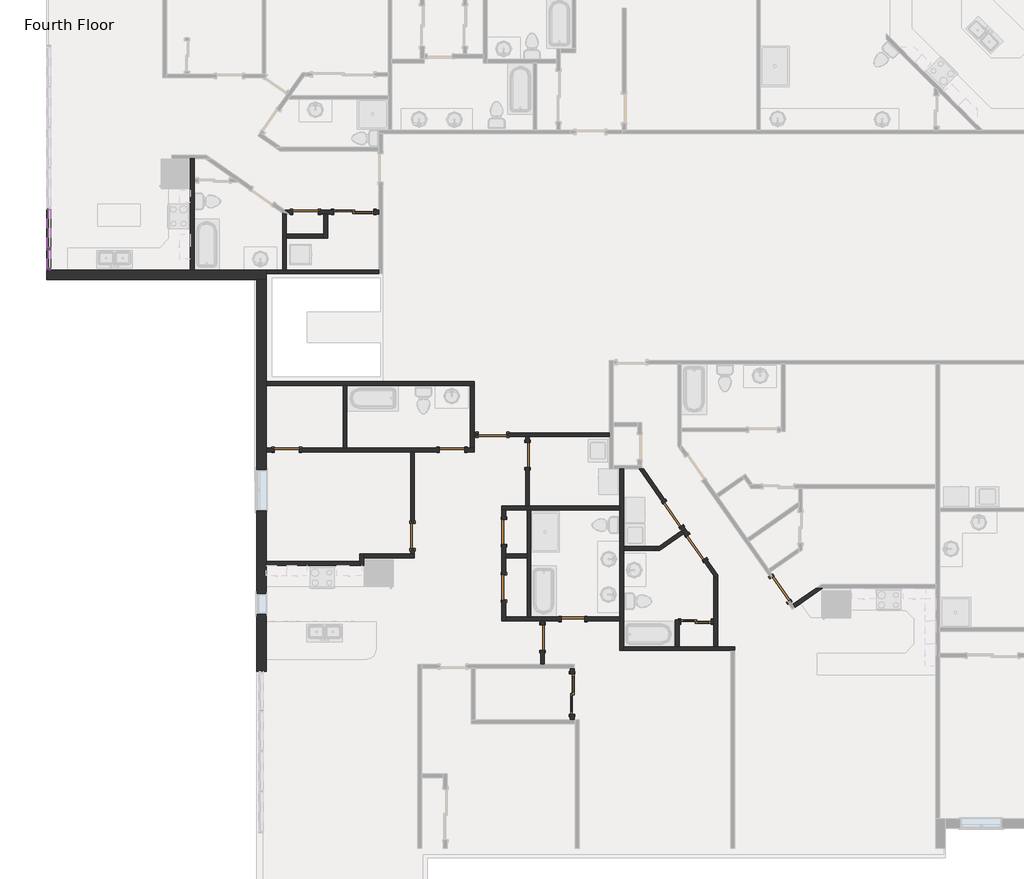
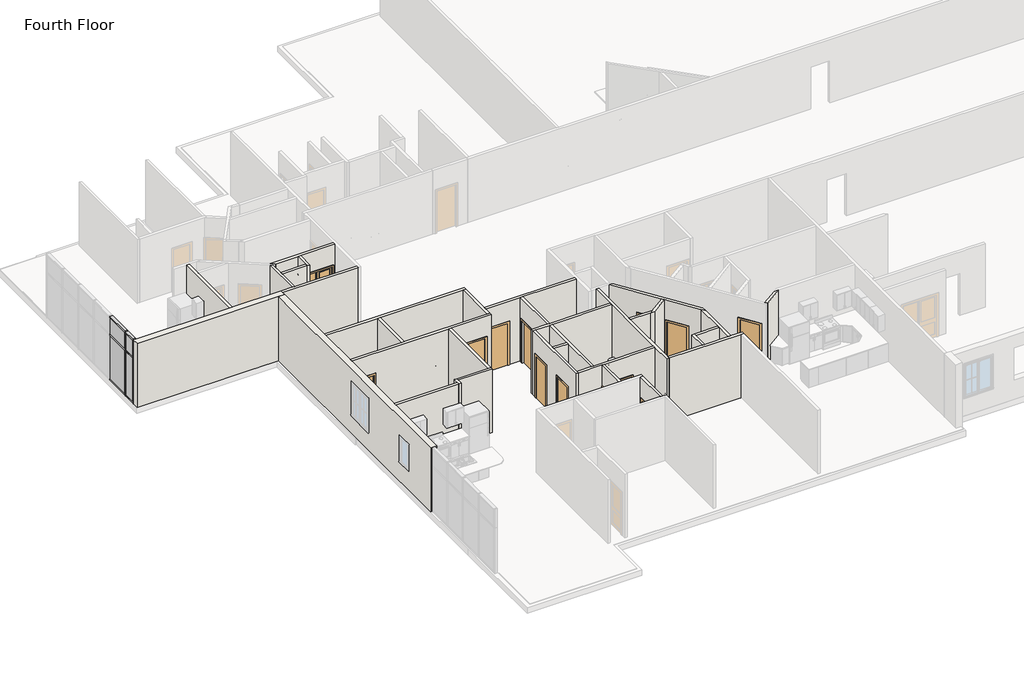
# One storey, part 2 of 17: 34 walls, 16 doors, 10 members, 4 plates.
"""IFC4 building model written with IfcOpenShell, lengths in millimetres."""

from ifc_helpers import new_model, si_unit, frame, origin, place, context, project, spatial, polyline, outline, extrude, faceted_brep, transform, mapped, element, save
from components import door_2d0eeab4, door_d8f5dbb5, door_f2b275c1, door_825b8444, door_c29894e6, door_88c23cd7, door_900f836f, rectangular_mullion_rectangular_mullion_1_fa3625a1, rectangular_mullion_rectangular_mullion_1_7cbf0b94, rectangular_mullion_rectangular_mullion_1_6186cc23, rectangular_mullion_rectangular_mullion_1_049a2e78, rectangular_mullion_rectangular_mullion_1_a50b3cda, rectangular_mullion_rectangular_mullion_1_5cd4c5ac, rectangular_mullion_rectangular_mullion_1_5f94ee87, rectangular_mullion_rectangular_mullion_1_01ab8f87, system_panel_glazed_0ed27d1d, system_panel_glazed_134bacdb, system_panel_glazed_08691960, system_panel_glazed_359e7c1e

model = new_model("IFC4")

# Units and contexts
model_context = context("Model", 3, world=origin())
ifc_project = project(units=[si_unit("LENGTHUNIT", "METRE", prefix="MILLI")], contexts=[model_context])

# Site, building, storey
site = spatial("IfcSite", under=ifc_project)
building = spatial("IfcBuilding", under=site)
storey = spatial("IfcBuildingStorey", under=building, Name="Fourth Floor", Elevation=9144.0)

# Doors
placement = place(None, origin())
door_shape = door_2d0eeab4(model_context)
element("IfcDoor", 1, ObjectType="Single-Flush : 28\" x 80\"", at=placement, inside=storey, context=model_context, shape_type="MappedRepresentation", body=[
    mapped(door_shape, transform((16422.928371, -12394.3493344, 9144.0), x_axis=(-1.0, 0.0, 0.0), y_axis=(0.0, -1.0, 0.0), z_axis=(0.0, 0.0, 1.0))),
])
door_2_shape = door_d8f5dbb5(model_context)
element("IfcDoor", 2, ObjectType="Single-Flush : 30\" x 80\"", at=placement, inside=storey, context=model_context, shape_type="MappedRepresentation", body=[
    mapped(door_2_shape, transform((12779.9561509, -7293.7212391, 9144.0), x_axis=(1.0, 0.0, 0.0), y_axis=(0.0, 1.0, 0.0), z_axis=(0.0, 0.0, 1.0))),
])
element("IfcDoor", 3, ObjectType="Single-Flush : 30\" x 80\"", at=placement, inside=storey, context=model_context, shape_type="MappedRepresentation", body=[
    mapped(door_2_shape, transform((14339.6754984, -9769.6379528, 9144.0), x_axis=(0.0, 1.0, 0.0), y_axis=(-1.0, 0.0, 0.0), z_axis=(0.0, 0.0, 1.0))),
])
door_3_shape = door_f2b275c1(model_context)
element("IfcDoor", 4, ObjectType="Single-Flush : 30\" x 80\"", at=placement, inside=storey, context=model_context, shape_type="MappedRepresentation", body=[
    mapped(door_3_shape, transform((8359.613642, -116.1297775, 9144.0), x_axis=(-1.0, 0.0, 0.0), y_axis=(0.0, -1.0, 0.0), z_axis=(0.0, 0.0, 1.0))),
])
element("IfcDoor", 5, ObjectType="Single-Flush : 30\" x 80\"", at=placement, inside=storey, context=model_context, shape_type="MappedRepresentation", body=[
    mapped(door_3_shape, transform((15056.22709, -7446.1212391, 9144.0), x_axis=(0.0, 1.0, 0.0), y_axis=(-1.0, 0.0, 0.0), z_axis=(0.0, 0.0, 1.0))),
])
element("IfcDoor", 6, ObjectType="Single-Flush : 30\" x 80\"", at=placement, inside=storey, context=model_context, shape_type="MappedRepresentation", body=[
    mapped(door_3_shape, transform((11582.8058728, -9888.1265712, 9144.0), x_axis=(0.0, -1.0, 0.0), y_axis=(1.0, 0.0, 0.0), z_axis=(0.0, 0.0, 1.0))),
])
element("IfcDoor", 7, ObjectType="Single-Flush : 30\" x 80\"", at=placement, inside=storey, context=model_context, shape_type="MappedRepresentation", body=[
    mapped(door_3_shape, transform((7791.0581159, -7293.7212391, 9144.0), x_axis=(-1.0, 0.0, 0.0), y_axis=(0.0, -1.0, 0.0), z_axis=(0.0, 0.0, 1.0))),
])
element("IfcDoor", 8, ObjectType="Single-Flush : 30\" x 80\"", at=placement, inside=storey, context=model_context, shape_type="MappedRepresentation", body=[
    mapped(door_3_shape, transform((14339.6754984, -11446.0379528, 9144.0), x_axis=(0.0, -1.0, 0.0), y_axis=(1.0, 0.0, 0.0), z_axis=(0.0, 0.0, 1.0))),
])
element("IfcDoor", 9, ObjectType="Single-Flush : 30\" x 80\"", at=placement, inside=storey, context=model_context, shape_type="MappedRepresentation", body=[
    mapped(door_3_shape, transform((15508.528371, -12959.3282576, 9144.0), x_axis=(0.0, 1.0, 0.0), y_axis=(-1.0, 0.0, 0.0), z_axis=(0.0, 0.0, 1.0))),
])
door_4_shape = door_825b8444(model_context)
element("IfcDoor", 10, ObjectType="Single-Flush : 34\" x 80\"", at=placement, inside=storey, context=model_context, shape_type="MappedRepresentation", body=[
    mapped(door_4_shape, transform((19441.5762048, -9236.3622072, 9144.0), x_axis=(0.573576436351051, -0.8191520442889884, 0.0), y_axis=(0.8191520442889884, 0.573576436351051, 0.0), z_axis=(0.0, 0.0, 1.0))),
])
door_5_shape = door_c29894e6(model_context)
element("IfcDoor", 11, ObjectType="Single-Flush : 34\" x 80\"", at=placement, inside=storey, context=model_context, shape_type="MappedRepresentation", body=[
    mapped(door_5_shape, transform((22679.8832205, -11498.1076976, 9144.0), x_axis=(0.5735764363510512, -0.8191520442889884, 0.0), y_axis=(0.8191520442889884, 0.5735764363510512, 0.0), z_axis=(0.0, 0.0, 1.0))),
])
element("IfcDoor", 12, ObjectType="Single-Flush : 34\" x 80\"", at=placement, inside=storey, context=model_context, shape_type="MappedRepresentation", body=[
    mapped(door_5_shape, transform((20140.880596, -10235.0723796, 9144.0), x_axis=(-0.573576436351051, 0.8191520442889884, 0.0), y_axis=(-0.8191520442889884, -0.573576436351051, 0.0), z_axis=(0.0, 0.0, 1.0))),
])
element("IfcDoor", 13, ObjectType="Single-Flush : 34\" x 80\"", at=placement, inside=storey, context=model_context, shape_type="MappedRepresentation", body=[
    mapped(door_5_shape, transform((13999.1561509, -6836.5212391, 9144.0), x_axis=(-1.0, 0.0, 0.0), y_axis=(0.0, -1.0, 0.0), z_axis=(0.0, 0.0, 1.0))),
])
door_6_shape = door_88c23cd7(model_context)
element("IfcDoor", 14, ObjectType="Sliding-Closet : 36\" x 80\"", at=placement, inside=storey, context=model_context, shape_type="MappedRepresentation", body=[
    mapped(door_6_shape, transform((20139.3524328, -12607.5204597, 9144.0), x_axis=(1.0, 0.0, 0.0), y_axis=(0.0, 1.0, 0.0), z_axis=(0.0, 0.0, 1.0))),
])
door_7_shape = door_900f836f(model_context)
element("IfcDoor", 15, ObjectType="Sliding-Closet : 48\" x 80\"", at=placement, inside=storey, context=model_context, shape_type="MappedRepresentation", body=[
    mapped(door_7_shape, transform((9813.633999, -243.1297775, 9144.0), x_axis=(1.0, 0.0, 0.0), y_axis=(0.0, 1.0, 0.0), z_axis=(0.0, 0.0, 1.0))),
])
element("IfcDoor", 16, ObjectType="Sliding-Closet : 48\" x 80\"", at=placement, inside=storey, context=model_context, shape_type="MappedRepresentation", body=[
    mapped(door_7_shape, transform((16274.860372, -14663.3427377, 9144.0), x_axis=(0.0, -1.0, 0.0), y_axis=(1.0, 0.0, 0.0), z_axis=(0.0, 0.0, 1.0))),
])

# Members
rectangular_mullion_rectangular_mullion_1_shape = rectangular_mullion_rectangular_mullion_1_fa3625a1(model_context)
element("IfcMember", 17, ObjectType="Rectangular Mullion : Rectangular Mullion 1", at=placement, inside=storey, context=model_context, shape_type="MappedRepresentation", body=[
    mapped(rectangular_mullion_rectangular_mullion_1_shape, transform((612.3831159, -1182.2572154, 12192.0), x_axis=(0.0, 0.0, 1.0), y_axis=(-1.0, 0.0, 0.0), z_axis=(0.0, -1.0, 0.0))),
])
element("IfcMember", 18, ObjectType="Rectangular Mullion : Rectangular Mullion 1", at=placement, inside=storey, context=model_context, shape_type="MappedRepresentation", body=[
    mapped(rectangular_mullion_rectangular_mullion_1_shape, transform((612.3831159, -26.5572154, 9144.0), x_axis=(0.0, 0.0, -1.0), y_axis=(-1.0, 0.0, 0.0), z_axis=(0.0, 1.0, 0.0))),
])
rectangular_mullion_rectangular_mullion_1_2_shape = rectangular_mullion_rectangular_mullion_1_7cbf0b94(model_context)
element("IfcMember", 19, ObjectType="Rectangular Mullion : Rectangular Mullion 1", at=placement, inside=storey, context=model_context, shape_type="MappedRepresentation", body=[
    mapped(rectangular_mullion_rectangular_mullion_1_2_shape, transform((612.3831159, -1182.2572154, 11309.35), x_axis=(0.0, 0.0, 1.0), y_axis=(-1.0, 0.0, 0.0), z_axis=(0.0, -1.0, 0.0))),
])
rectangular_mullion_rectangular_mullion_1_3_shape = rectangular_mullion_rectangular_mullion_1_6186cc23(model_context)
element("IfcMember", 20, ObjectType="Rectangular Mullion : Rectangular Mullion 1", at=placement, inside=storey, context=model_context, shape_type="MappedRepresentation", body=[
    mapped(rectangular_mullion_rectangular_mullion_1_3_shape, transform((612.3831159, -1214.0072154, 9144.0), x_axis=(0.0, -1.0, 0.0), y_axis=(-1.0, 0.0, 0.0), z_axis=(0.0, 0.0, -1.0))),
])
rectangular_mullion_rectangular_mullion_1_4_shape = rectangular_mullion_rectangular_mullion_1_049a2e78(model_context)
element("IfcMember", 21, ObjectType="Rectangular Mullion : Rectangular Mullion 1", at=placement, inside=storey, context=model_context, shape_type="MappedRepresentation", body=[
    mapped(rectangular_mullion_rectangular_mullion_1_4_shape, transform((612.3831159, -1214.0072154, 11309.35), x_axis=(0.0, -1.0, 0.0), y_axis=(-1.0, 0.0, 0.0), z_axis=(0.0, 0.0, -1.0))),
])
rectangular_mullion_rectangular_mullion_1_5_shape = rectangular_mullion_rectangular_mullion_1_a50b3cda(model_context)
element("IfcMember", 22, ObjectType="Rectangular Mullion : Rectangular Mullion 1", at=placement, inside=storey, context=model_context, shape_type="MappedRepresentation", body=[
    mapped(rectangular_mullion_rectangular_mullion_1_5_shape, transform((612.3831159, -1864.031369, 9144.0), x_axis=(0.0, -1.0, 0.0), y_axis=(-1.0, 0.0, 0.0), z_axis=(0.0, 0.0, -1.0))),
])
rectangular_mullion_rectangular_mullion_1_6_shape = rectangular_mullion_rectangular_mullion_1_5cd4c5ac(model_context)
element("IfcMember", 23, ObjectType="Rectangular Mullion : Rectangular Mullion 1", at=placement, inside=storey, context=model_context, shape_type="MappedRepresentation", body=[
    mapped(rectangular_mullion_rectangular_mullion_1_6_shape, transform((612.3831159, -1864.031369, 11309.35), x_axis=(0.0, -1.0, 0.0), y_axis=(-1.0, 0.0, 0.0), z_axis=(0.0, 0.0, -1.0))),
])
rectangular_mullion_rectangular_mullion_1_7_shape = rectangular_mullion_rectangular_mullion_1_5f94ee87(model_context)
element("IfcMember", 24, ObjectType="Rectangular Mullion : Rectangular Mullion 1", at=placement, inside=storey, context=model_context, shape_type="MappedRepresentation", body=[
    mapped(rectangular_mullion_rectangular_mullion_1_7_shape, transform((612.3831159, -1800.531369, 12192.0), x_axis=(0.0, 0.0, 1.0), y_axis=(-1.0, 0.0, 0.0), z_axis=(0.0, -1.0, 0.0))),
])
element("IfcMember", 25, ObjectType="Rectangular Mullion : Rectangular Mullion 1", at=placement, inside=storey, context=model_context, shape_type="MappedRepresentation", body=[
    mapped(rectangular_mullion_rectangular_mullion_1_7_shape, transform((612.3831159, -1245.7572154, 9144.0), x_axis=(0.0, 0.0, -1.0), y_axis=(-1.0, 0.0, 0.0), z_axis=(0.0, 1.0, 0.0))),
])
rectangular_mullion_rectangular_mullion_1_8_shape = rectangular_mullion_rectangular_mullion_1_01ab8f87(model_context)
element("IfcMember", 26, ObjectType="Rectangular Mullion : Rectangular Mullion 1", at=placement, inside=storey, context=model_context, shape_type="MappedRepresentation", body=[
    mapped(rectangular_mullion_rectangular_mullion_1_8_shape, transform((612.3831159, -1800.531369, 11309.35), x_axis=(0.0, 0.0, 1.0), y_axis=(-1.0, 0.0, 0.0), z_axis=(0.0, -1.0, 0.0))),
])

# Plates
system_panel_glazed_shape = system_panel_glazed_0ed27d1d(model_context)
element("IfcPlate", 27, ObjectType="System Panel : Glazed", at=placement, inside=storey, context=model_context, shape_type="MappedRepresentation", body=[
    mapped(system_panel_glazed_shape, transform((612.3831159, -604.4072154, 9207.5), x_axis=(0.0, -1.0, 0.0), y_axis=(1.0, 0.0, 0.0), z_axis=(0.0, 0.0, 1.0))),
])
system_panel_glazed_2_shape = system_panel_glazed_134bacdb(model_context)
element("IfcPlate", 28, ObjectType="System Panel : Glazed", at=placement, inside=storey, context=model_context, shape_type="MappedRepresentation", body=[
    mapped(system_panel_glazed_2_shape, transform((612.3831159, -604.4072154, 11341.1), x_axis=(0.0, -1.0, 0.0), y_axis=(1.0, 0.0, 0.0), z_axis=(0.0, 0.0, 1.0))),
])
system_panel_glazed_3_shape = system_panel_glazed_08691960(model_context)
element("IfcPlate", 29, ObjectType="System Panel : Glazed", at=placement, inside=storey, context=model_context, shape_type="MappedRepresentation", body=[
    mapped(system_panel_glazed_3_shape, transform((612.3831159, -1523.1442922, 9207.5), x_axis=(0.0, -1.0, 0.0), y_axis=(1.0, 0.0, 0.0), z_axis=(0.0, 0.0, 1.0))),
])
system_panel_glazed_4_shape = system_panel_glazed_359e7c1e(model_context)
element("IfcPlate", 30, ObjectType="System Panel : Glazed", at=placement, inside=storey, context=model_context, shape_type="MappedRepresentation", body=[
    mapped(system_panel_glazed_4_shape, transform((612.3831159, -1523.1442922, 11341.1), x_axis=(0.0, -1.0, 0.0), y_axis=(1.0, 0.0, 0.0), z_axis=(0.0, 0.0, 1.0))),
])

# Walls
element("IfcWall", 31, ObjectType="Exterior - Brick on Wood Stud", at=placement, inside=storey, context=model_context, shape_type="Brep", body=[
    faceted_brep([(7170.3456159, -13981.3871067, 9144.0), (7170.3456159, -10775.0993344, 9144.0), (7170.3456159, -10660.7993344, 9144.0), (7170.3456159, -7350.8712391, 9144.0), (7170.3456159, -7236.5712391, 9144.0), (7170.3456159, -5351.7371067, 9144.0), (7170.3456159, -5237.4371067, 9144.0), (7170.3456159, -2146.606369, 9144.0), (7170.3456159, -2146.606369, 12192.0), (7170.3456159, -5237.4371067, 12192.0), (7170.3456159, -5351.7371067, 12192.0), (7170.3456159, -7236.5712391, 12192.0), (7170.3456159, -7350.8712391, 12192.0), (7170.3456159, -10660.7993344, 12192.0), (7170.3456159, -10775.0993344, 12192.0), (7170.3456159, -13981.3871067, 12192.0), (7170.3456159, -7903.3212391, 11582.4), (7170.3456159, -7903.3212391, 10058.4), (7170.3456159, -9122.5212391, 10058.4), (7170.3456159, -9122.5212391, 11582.4), (7170.3456159, -11632.3493344, 11277.6), (7170.3456159, -11632.3493344, 10058.4), (7170.3456159, -12241.9493344, 10058.4), (7170.3456159, -12241.9493344, 11277.6), (6887.7706159, -13981.3871067, 9144.0), (6887.7706159, -13981.3871067, 12192.0), (6887.7706159, -2146.606369, 12192.0), (6887.7706159, -2146.606369, 9144.0), (6887.7706159, -7903.3212391, 11582.4), (6887.7706159, -9122.5212391, 11582.4), (6887.7706159, -9122.5212391, 10058.4), (6887.7706159, -7903.3212391, 10058.4), (6887.7706159, -11632.3493344, 11277.6), (6887.7706159, -12241.9493344, 11277.6), (6887.7706159, -12241.9493344, 10058.4), (6887.7706159, -11632.3493344, 10058.4)], [[[0, 1, 2, 3, 4, 5, 6, 7, 8, 9, 10, 11, 12, 13, 14, 15], [16, 17, 18, 19], [20, 21, 22, 23]], [[24, 25, 26, 27], [28, 29, 30, 31], [32, 33, 34, 35]], [[7, 6, 5, 4, 3, 2, 1, 0, 24, 27]], [[15, 14, 13, 12, 11, 10, 9, 8, 26, 25]], [[0, 15, 25, 24]], [[17, 16, 28, 31]], [[18, 17, 31, 30]], [[19, 18, 30, 29]], [[16, 19, 29, 28]], [[21, 20, 32, 35]], [[22, 21, 35, 34]], [[23, 22, 34, 33]], [[20, 23, 33, 32]], [[8, 7, 27, 26]]]),
])
element("IfcWall", 32, ObjectType="Exterior - Brick on Wood Stud", at=placement, inside=storey, context=model_context, shape_type="Brep", body=[
    faceted_brep([(548.8831159, -2146.606369, 9144.0), (6887.7706159, -2146.606369, 9144.0), (7170.3456159, -2146.606369, 9144.0), (7170.3456159, -2146.606369, 12192.0), (6887.7706159, -2146.606369, 12192.0), (548.8831159, -2146.606369, 12192.0), (548.8831159, -1864.031369, 9144.0), (548.8831159, -1864.031369, 12192.0), (4880.7003923, -1864.031369, 12192.0), (4995.0003923, -1864.031369, 12192.0), (7170.3456159, -1864.031369, 12192.0), (7170.3456159, -1864.031369, 9144.0), (4995.0003923, -1864.031369, 9144.0), (4880.7003923, -1864.031369, 9144.0), (7170.3456159, -1978.331369, 9144.0), (7170.3456159, -1978.331369, 12192.0)], [[[0, 1, 2, 3, 4, 5]], [[6, 7, 8, 9, 10, 11, 12, 13]], [[2, 1, 0, 6, 13, 12, 11, 14]], [[5, 4, 3, 15, 10, 9, 8, 7]], [[0, 5, 7, 6]], [[3, 2, 14, 11, 10, 15]]]),
])
element("IfcWall", 33, ObjectType="Interior - 4 1/2\" Partition", at=placement, inside=storey, context=model_context, shape_type="Brep", body=[
    faceted_brep([(4995.0003923, -1864.031369, 9144.0), (4995.0003923, 782.2685137, 9144.0), (4995.0003923, 896.5685137, 9144.0), (4995.0003923, 1493.4685137, 9144.0), (4995.0003923, 1493.4685137, 12192.0), (4995.0003923, 896.5685137, 12192.0), (4995.0003923, 782.2685137, 12192.0), (4995.0003923, -1864.031369, 12192.0), (4880.7003923, -1864.031369, 9144.0), (4880.7003923, -1864.031369, 12192.0), (4880.7003923, 1493.4685137, 12192.0), (4880.7003923, 1493.4685137, 9144.0)], [[[0, 1, 2, 3, 4, 5, 6, 7]], [[8, 9, 10, 11]], [[3, 2, 1, 0, 8, 11]], [[7, 6, 5, 4, 10, 9]], [[0, 7, 9, 8]], [[4, 3, 11, 10]]]),
])
element("IfcWall", 34, ObjectType="Interior - 4 1/2\" Partition", at=placement, inside=storey, context=model_context, shape_type="Brep", body=[
    faceted_brep([(10569.283999, -173.2797775, 12192.0), (9026.363642, -173.2797775, 12192.0), (8912.063642, -173.2797775, 12192.0), (7905.870285, -173.2797775, 12192.0), (7905.870285, -173.2797775, 9144.0), (7978.613642, -173.2797775, 9144.0), (7978.613642, -173.2797775, 11176.0), (8740.613642, -173.2797775, 11176.0), (8740.613642, -173.2797775, 9144.0), (8912.063642, -173.2797775, 9144.0), (9026.363642, -173.2797775, 9144.0), (9204.033999, -173.2797775, 9144.0), (9204.033999, -173.2797775, 11176.0), (10423.233999, -173.2797775, 11176.0), (10423.233999, -173.2797775, 9144.0), (10569.283999, -173.2797775, 9144.0), (7742.6329678, -58.9797775, 12192.0), (10569.283999, -58.9797775, 12192.0), (10569.283999, -58.9797775, 9144.0), (10423.233999, -58.9797775, 9144.0), (10423.233999, -58.9797775, 11176.0), (9204.033999, -58.9797775, 11176.0), (9204.033999, -58.9797775, 9144.0), (8740.613642, -58.9797775, 9144.0), (8740.613642, -58.9797775, 11176.0), (7978.613642, -58.9797775, 11176.0), (7978.613642, -58.9797775, 9144.0), (7742.6329678, -58.9797775, 9144.0)], [[[0, 1, 2, 3, 4, 5, 6, 7, 8, 9, 10, 11, 12, 13, 14, 15]], [[16, 17, 18, 19, 20, 21, 22, 23, 24, 25, 26, 27]], [[26, 5, 4, 27]], [[8, 23, 22, 11, 10, 9]], [[18, 15, 14, 19]], [[3, 2, 1, 0, 17, 16]], [[6, 5, 26, 25]], [[7, 6, 25, 24]], [[8, 7, 24, 23]], [[21, 12, 11, 22]], [[12, 21, 20, 13]], [[13, 20, 19, 14]], [[4, 3, 16, 27]], [[0, 15, 18, 17]]]),
])
element("IfcWall", 35, ObjectType="Interior - 4 1/2\" Partition", at=placement, inside=storey, context=model_context, shape_type="Brep", body=[
    faceted_brep([(7667.463642, -145.8801844, 9144.0), (7667.463642, -1864.031369, 9144.0), (7667.463642, -1864.031369, 12192.0), (7667.463642, -145.8801844, 12192.0), (7781.763642, -173.2797775, 9144.0), (7781.763642, -173.2797775, 12192.0), (7781.763642, -783.946226, 12192.0), (7781.763642, -898.246226, 12192.0), (7781.763642, -1864.031369, 12192.0), (7781.763642, -1864.031369, 9144.0), (7781.763642, -898.246226, 9144.0), (7781.763642, -783.946226, 9144.0), (7706.5943163, -173.2797775, 9144.0), (7706.5943163, -173.2797775, 12192.0)], [[[0, 1, 2, 3]], [[4, 5, 6, 7, 8, 9, 10, 11]], [[1, 0, 12, 4, 11, 10, 9]], [[3, 2, 8, 7, 6, 5, 13]], [[2, 1, 9, 8]], [[0, 3, 13, 12]], [[13, 5, 4, 12]]]),
])
element("IfcWall", 36, ObjectType="Interior - 4 1/2\" Partition", at=placement, inside=storey, context=model_context, shape_type="Brep", body=[
    faceted_brep([(8912.063642, -173.2797775, 9144.0), (8912.063642, -783.946226, 9144.0), (8912.063642, -898.246226, 9144.0), (8912.063642, -898.246226, 12192.0), (8912.063642, -783.946226, 12192.0), (8912.063642, -173.2797775, 12192.0), (9026.363642, -173.2797775, 9144.0), (9026.363642, -173.2797775, 12192.0), (9026.363642, -898.246226, 12192.0), (9026.363642, -898.246226, 9144.0)], [[[0, 1, 2, 3, 4, 5]], [[6, 7, 8, 9]], [[2, 1, 0, 6, 9]], [[5, 4, 3, 8, 7]], [[3, 2, 9, 8]], [[0, 5, 7, 6]]]),
])
element("IfcWall", 37, ObjectType="Interior - 4 1/2\" Partition", at=placement, inside=storey, context=model_context, shape_type="SweptSolid", body=[
    extrude(outline(polyline([(7781.763642, -783.946226), (8912.063642, -783.946226), (8912.063642, -898.246226), (7781.763642, -898.246226), (7781.763642, -783.946226)])), frame((0.0, 0.0, 9144.0), z_axis=(0.0, 0.0, 1.0), x_axis=(1.0, 0.0, 0.0)), (0.0, 0.0, 1.0), 3048.0),
])
element("IfcWall", 38, ObjectType="Interior - 4 1/2\" Partition", at=placement, inside=storey, context=model_context, shape_type="Brep", body=[
    faceted_brep([(7170.3456159, -5351.7371067, 9144.0), (9494.3397027, -5351.7371067, 9144.0), (9608.6397027, -5351.7371067, 9144.0), (13332.4061509, -5351.7371067, 9144.0), (13446.7061509, -5351.7371067, 9144.0), (13446.7061509, -5351.7371067, 12192.0), (13332.4061509, -5351.7371067, 12192.0), (9608.6397027, -5351.7371067, 12192.0), (9494.3397027, -5351.7371067, 12192.0), (7170.3456159, -5351.7371067, 12192.0), (7170.3456159, -5237.4371067, 9144.0), (7170.3456159, -5237.4371067, 12192.0), (13446.7061509, -5237.4371067, 12192.0), (13446.7061509, -5237.4371067, 9144.0)], [[[0, 1, 2, 3, 4, 5, 6, 7, 8, 9]], [[10, 11, 12, 13]], [[4, 3, 2, 1, 0, 10, 13]], [[9, 8, 7, 6, 5, 12, 11]], [[5, 4, 13, 12]], [[0, 9, 11, 10]]]),
])
element("IfcWall", 39, ObjectType="Interior - 4 1/2\" Partition", at=placement, inside=storey, context=model_context, shape_type="Brep", body=[
    faceted_brep([(13332.4061509, -5351.7371067, 9144.0), (13332.4061509, -7236.5712391, 9144.0), (13332.4061509, -7236.5712391, 12192.0), (13332.4061509, -5351.7371067, 12192.0), (13446.7061509, -5351.7371067, 9144.0), (13446.7061509, -5351.7371067, 12192.0), (13446.7061509, -6779.3712391, 12192.0), (13446.7061509, -6893.6712391, 12192.0), (13446.7061509, -7236.5712391, 12192.0), (13446.7061509, -7236.5712391, 9144.0), (13446.7061509, -6893.6712391, 9144.0), (13446.7061509, -6779.3712391, 9144.0)], [[[0, 1, 2, 3]], [[4, 5, 6, 7, 8, 9, 10, 11]], [[1, 0, 4, 11, 10, 9]], [[3, 2, 8, 7, 6, 5]], [[2, 1, 9, 8]], [[0, 3, 5, 4]]]),
])
element("IfcWall", 40, ObjectType="Interior - 4 1/2\" Partition", at=placement, inside=storey, context=model_context, shape_type="Brep", body=[
    faceted_brep([(13446.7061509, -6893.6712391, 9144.0), (13567.3561509, -6893.6712391, 9144.0), (13567.3561509, -6893.6712391, 11176.0), (14430.9561509, -6893.6712391, 11176.0), (14430.9561509, -6893.6712391, 9144.0), (14999.07709, -6893.6712391, 9144.0), (15113.37709, -6893.6712391, 9144.0), (17521.3916991, -6893.6712391, 9144.0), (17521.3916991, -6893.6712391, 12192.0), (15113.37709, -6893.6712391, 12192.0), (14999.07709, -6893.6712391, 12192.0), (13446.7061509, -6893.6712391, 12192.0), (13567.3561509, -6779.3712391, 11176.0), (13567.3561509, -6779.3712391, 9144.0), (13446.7061509, -6779.3712391, 9144.0), (13446.7061509, -6779.3712391, 12192.0), (17521.3916991, -6779.3712391, 12192.0), (17521.3916991, -6779.3712391, 9144.0), (14430.9561509, -6779.3712391, 9144.0), (14430.9561509, -6779.3712391, 11176.0)], [[[0, 1, 2, 3, 4, 5, 6, 7, 8, 9, 10, 11]], [[12, 13, 14, 15, 16, 17, 18, 19]], [[18, 17, 7, 6, 5, 4]], [[14, 13, 1, 0]], [[11, 10, 9, 8, 16, 15]], [[2, 1, 13, 12]], [[3, 2, 12, 19]], [[4, 3, 19, 18]], [[8, 7, 17, 16]], [[0, 11, 15, 14]]]),
])
element("IfcWall", 41, ObjectType="Interior - 4 1/2\" Partition", at=placement, inside=storey, context=model_context, shape_type="Brep", body=[
    faceted_brep([(17837.7191338, -7873.4719726, 9144.0), (17837.7191338, -8984.3993344, 9144.0), (17837.7191338, -9098.6993344, 9144.0), (17837.7191338, -12337.1993344, 9144.0), (17837.7191338, -12451.4993344, 9144.0), (17837.7191338, -13350.4704597, 9144.0), (17837.7191338, -13350.4704597, 12192.0), (17837.7191338, -12451.4993344, 12192.0), (17837.7191338, -12337.1993344, 12192.0), (17837.7191338, -9098.6993344, 12192.0), (17837.7191338, -8984.3993344, 12192.0), (17837.7191338, -7873.4719726, 12192.0), (17952.0191338, -7873.4719726, 9144.0), (17952.0191338, -7873.4719726, 12192.0), (17952.0191338, -10214.0460393, 12192.0), (17952.0191338, -10328.3460393, 12192.0), (17952.0191338, -13236.1704597, 12192.0), (17952.0191338, -13350.4704597, 12192.0), (17952.0191338, -13350.4704597, 9144.0), (17952.0191338, -13236.1704597, 9144.0), (17952.0191338, -10328.3460393, 9144.0), (17952.0191338, -10214.0460393, 9144.0)], [[[0, 1, 2, 3, 4, 5, 6, 7, 8, 9, 10, 11]], [[12, 13, 14, 15, 16, 17, 18, 19, 20, 21]], [[5, 4, 3, 2, 1, 0, 12, 21, 20, 19, 18]], [[11, 10, 9, 8, 7, 6, 17, 16, 15, 14, 13]], [[6, 5, 18, 17]], [[0, 11, 13, 12]]]),
])
element("IfcWall", 42, ObjectType="Interior - 4 1/2\" Partition", at=placement, inside=storey, context=model_context, shape_type="Brep", body=[
    faceted_brep([(17952.0191338, -13350.4704597, 9144.0), (21185.6615862, -13350.4704597, 9144.0), (21299.9615862, -13350.4704597, 9144.0), (21299.9615862, -13350.4704597, 12192.0), (21185.6615862, -13350.4704597, 12192.0), (17952.0191338, -13350.4704597, 12192.0), (17952.0191338, -13236.1704597, 9144.0), (17952.0191338, -13236.1704597, 12192.0), (19511.69036, -13236.1704597, 12192.0), (19625.99036, -13236.1704597, 12192.0), (20678.1145056, -13236.1704597, 12192.0), (20792.4145056, -13236.1704597, 12192.0), (21299.9615862, -13236.1704597, 12192.0), (21299.9615862, -13236.1704597, 9144.0), (20792.4145056, -13236.1704597, 9144.0), (20678.1145056, -13236.1704597, 9144.0), (19625.99036, -13236.1704597, 9144.0), (19511.69036, -13236.1704597, 9144.0)], [[[0, 1, 2, 3, 4, 5]], [[6, 7, 8, 9, 10, 11, 12, 13, 14, 15, 16, 17]], [[2, 1, 0, 6, 17, 16, 15, 14, 13]], [[5, 4, 3, 12, 11, 10, 9, 8, 7]], [[3, 2, 13, 12]], [[0, 5, 7, 6]]]),
])
element("IfcWall", 43, ObjectType="Interior - 4 1/2\" Partition", at=placement, inside=storey, context=model_context, shape_type="SweptSolid", body=[
    extrude(outline(polyline([(-15272.9427377, 11176.0), (-15272.9427377, 9144.0), (-15440.4282946, 9144.0), (-15440.4282946, 12192.0), (-13886.2571807, 12192.0), (-13886.2571807, 9144.0), (-14053.7427377, 9144.0), (-14053.7427377, 11176.0), (-15272.9427377, 11176.0)])), frame((16344.710372, 0.0, 0.0), z_axis=(1.0, 0.0, 0.0), x_axis=(0.0, 1.0, 0.0)), (0.0, 0.0, 1.0), 114.3),
])
element("IfcWall", 44, ObjectType="Interior - 4 1/2\" Partition", at=placement, inside=storey, context=model_context, shape_type="Brep", body=[
    faceted_brep([(17837.7191338, -8984.3993344, 9144.0), (15113.37709, -8984.3993344, 9144.0), (14999.07709, -8984.3993344, 9144.0), (14282.5254984, -8984.3993344, 9144.0), (14282.5254984, -8984.3993344, 12192.0), (14999.07709, -8984.3993344, 12192.0), (15113.37709, -8984.3993344, 12192.0), (17837.7191338, -8984.3993344, 12192.0), (17837.7191338, -9098.6993344, 9144.0), (17837.7191338, -9098.6993344, 12192.0), (15157.82709, -9098.6993344, 12192.0), (15043.52709, -9098.6993344, 12192.0), (14396.8254984, -9098.6993344, 12192.0), (14282.5254984, -9098.6993344, 12192.0), (14282.5254984, -9098.6993344, 9144.0), (14396.8254984, -9098.6993344, 9144.0), (15043.52709, -9098.6993344, 9144.0), (15157.82709, -9098.6993344, 9144.0)], [[[0, 1, 2, 3, 4, 5, 6, 7]], [[8, 9, 10, 11, 12, 13, 14, 15, 16, 17]], [[3, 2, 1, 0, 8, 17, 16, 15, 14]], [[7, 6, 5, 4, 13, 12, 11, 10, 9]], [[4, 3, 14, 13]], [[0, 7, 9, 8]]]),
])
element("IfcWall", 45, ObjectType="Interior - 4 1/2\" Partition", at=placement, inside=storey, context=model_context, shape_type="SweptSolid", body=[
    extrude(outline(polyline([(-6893.6712391, 9144.0), (-7065.1212391, 9144.0), (-7065.1212391, 11176.0), (-7827.1212391, 11176.0), (-7827.1212391, 9144.0), (-8984.3993344, 9144.0), (-8984.3993344, 12192.0), (-6893.6712391, 12192.0), (-6893.6712391, 9144.0)])), frame((14999.07709, 0.0, 0.0), z_axis=(1.0, 0.0, 0.0), x_axis=(0.0, 1.0, 0.0)), (0.0, 0.0, 1.0), 114.3),
])
element("IfcWall", 46, ObjectType="Interior - 4 1/2\" Partition", at=placement, inside=storey, context=model_context, shape_type="Brep", body=[
    faceted_brep([(14282.5254984, -11827.0379528, 11176.0), (14282.5254984, -11827.0379528, 9144.0), (14282.5254984, -12451.4993344, 9144.0), (14282.5254984, -12451.4993344, 12192.0), (14282.5254984, -9098.6993344, 12192.0), (14282.5254984, -9098.6993344, 9144.0), (14282.5254984, -9388.6379528, 9144.0), (14282.5254984, -9388.6379528, 11176.0), (14282.5254984, -10150.6379528, 11176.0), (14282.5254984, -10150.6379528, 9144.0), (14282.5254984, -11065.0379528, 9144.0), (14282.5254984, -11065.0379528, 11176.0), (14396.8254984, -12451.4993344, 9144.0), (14396.8254984, -12337.1993344, 9144.0), (14396.8254984, -11827.0379528, 9144.0), (14396.8254984, -11827.0379528, 11176.0), (14396.8254984, -11065.0379528, 11176.0), (14396.8254984, -11065.0379528, 9144.0), (14396.8254984, -10554.8765712, 9144.0), (14396.8254984, -10440.5765712, 9144.0), (14396.8254984, -10150.6379528, 9144.0), (14396.8254984, -10150.6379528, 11176.0), (14396.8254984, -9388.6379528, 11176.0), (14396.8254984, -9388.6379528, 9144.0), (14396.8254984, -9098.6993344, 9144.0), (14396.8254984, -9098.6993344, 12192.0), (14396.8254984, -10440.5765712, 12192.0), (14396.8254984, -10554.8765712, 12192.0), (14396.8254984, -12337.1993344, 12192.0), (14396.8254984, -12451.4993344, 12192.0)], [[[0, 1, 2, 3, 4, 5, 6, 7, 8, 9, 10, 11]], [[12, 13, 14, 15, 16, 17, 18, 19, 20, 21, 22, 23, 24, 25, 26, 27, 28, 29]], [[24, 23, 6, 5]], [[10, 9, 20, 19, 18, 17]], [[2, 1, 14, 13, 12]], [[4, 3, 29, 28, 27, 26, 25]], [[7, 6, 23, 22]], [[8, 7, 22, 21]], [[9, 8, 21, 20]], [[15, 14, 1, 0]], [[16, 15, 0, 11]], [[17, 16, 11, 10]], [[3, 2, 12, 29]], [[5, 4, 25, 24]]]),
])
element("IfcWall", 47, ObjectType="Interior - 4 1/2\" Partition", at=placement, inside=storey, context=model_context, shape_type="Brep", body=[
    faceted_brep([(14396.8254984, -12451.4993344, 9144.0), (15451.378371, -12451.4993344, 9144.0), (15565.678371, -12451.4993344, 9144.0), (16067.328371, -12451.4993344, 9144.0), (16067.328371, -12451.4993344, 11176.0), (16778.528371, -12451.4993344, 11176.0), (16778.528371, -12451.4993344, 9144.0), (17837.7191338, -12451.4993344, 9144.0), (17837.7191338, -12451.4993344, 12192.0), (15565.678371, -12451.4993344, 12192.0), (15451.378371, -12451.4993344, 12192.0), (14396.8254984, -12451.4993344, 12192.0), (16067.328371, -12337.1993344, 11176.0), (16067.328371, -12337.1993344, 9144.0), (15157.82709, -12337.1993344, 9144.0), (15043.52709, -12337.1993344, 9144.0), (14396.8254984, -12337.1993344, 9144.0), (14396.8254984, -12337.1993344, 12192.0), (15043.52709, -12337.1993344, 12192.0), (15157.82709, -12337.1993344, 12192.0), (17837.7191338, -12337.1993344, 12192.0), (17837.7191338, -12337.1993344, 9144.0), (16778.528371, -12337.1993344, 9144.0), (16778.528371, -12337.1993344, 11176.0)], [[[0, 1, 2, 3, 4, 5, 6, 7, 8, 9, 10, 11]], [[12, 13, 14, 15, 16, 17, 18, 19, 20, 21, 22, 23]], [[22, 21, 7, 6]], [[16, 15, 14, 13, 3, 2, 1, 0]], [[11, 10, 9, 8, 20, 19, 18, 17]], [[4, 3, 13, 12]], [[5, 4, 12, 23]], [[6, 5, 23, 22]], [[0, 11, 17, 16]], [[8, 7, 21, 20]]]),
])
element("IfcWall", 48, ObjectType="Interior - 4 1/2\" Partition", at=placement, inside=storey, context=model_context, shape_type="Brep", body=[
    faceted_brep([(15043.52709, -9098.6993344, 9144.0), (15043.52709, -10440.5765712, 9144.0), (15043.52709, -10554.8765712, 9144.0), (15043.52709, -12337.1993344, 9144.0), (15043.52709, -12337.1993344, 12192.0), (15043.52709, -10554.8765712, 12192.0), (15043.52709, -10440.5765712, 12192.0), (15043.52709, -9098.6993344, 12192.0), (15157.82709, -9098.6993344, 9144.0), (15157.82709, -9098.6993344, 12192.0), (15157.82709, -12337.1993344, 12192.0), (15157.82709, -12337.1993344, 9144.0)], [[[0, 1, 2, 3, 4, 5, 6, 7]], [[8, 9, 10, 11]], [[3, 2, 1, 0, 8, 11]], [[7, 6, 5, 4, 10, 9]], [[4, 3, 11, 10]], [[0, 7, 9, 8]]]),
])
element("IfcWall", 49, ObjectType="Interior - 4 1/2\" Partition", at=placement, inside=storey, context=model_context, shape_type="Brep", body=[
    faceted_brep([(7170.3456159, -7350.8712391, 9144.0), (7410.0581159, -7350.8712391, 9144.0), (7410.0581159, -7350.8712391, 11176.0), (8172.0581159, -7350.8712391, 11176.0), (8172.0581159, -7350.8712391, 9144.0), (11525.6558728, -7350.8712391, 9144.0), (11639.9558728, -7350.8712391, 9144.0), (12398.9561509, -7350.8712391, 9144.0), (12398.9561509, -7350.8712391, 11176.0), (13160.9561509, -7350.8712391, 11176.0), (13160.9561509, -7350.8712391, 9144.0), (13446.7061509, -7350.8712391, 9144.0), (13446.7061509, -7350.8712391, 12192.0), (11639.9558728, -7350.8712391, 12192.0), (11525.6558728, -7350.8712391, 12192.0), (7170.3456159, -7350.8712391, 12192.0), (7410.0581159, -7236.5712391, 11176.0), (7410.0581159, -7236.5712391, 9144.0), (7170.3456159, -7236.5712391, 9144.0), (7170.3456159, -7236.5712391, 12192.0), (9494.3397027, -7236.5712391, 12192.0), (9608.6397027, -7236.5712391, 12192.0), (13332.4061509, -7236.5712391, 12192.0), (13446.7061509, -7236.5712391, 12192.0), (13446.7061509, -7236.5712391, 9144.0), (13332.4061509, -7236.5712391, 9144.0), (13160.9561509, -7236.5712391, 9144.0), (13160.9561509, -7236.5712391, 11176.0), (12398.9561509, -7236.5712391, 11176.0), (12398.9561509, -7236.5712391, 9144.0), (9608.6397027, -7236.5712391, 9144.0), (9494.3397027, -7236.5712391, 9144.0), (8172.0581159, -7236.5712391, 9144.0), (8172.0581159, -7236.5712391, 11176.0)], [[[0, 1, 2, 3, 4, 5, 6, 7, 8, 9, 10, 11, 12, 13, 14, 15]], [[16, 17, 18, 19, 20, 21, 22, 23, 24, 25, 26, 27, 28, 29, 30, 31, 32, 33]], [[11, 10, 26, 25, 24]], [[18, 17, 1, 0]], [[32, 31, 30, 29, 7, 6, 5, 4]], [[15, 14, 13, 12, 23, 22, 21, 20, 19]], [[27, 26, 10, 9]], [[28, 27, 9, 8]], [[29, 28, 8, 7]], [[2, 1, 17, 16]], [[3, 2, 16, 33]], [[4, 3, 33, 32]], [[12, 11, 24, 23]], [[0, 15, 19, 18]]]),
])
element("IfcWall", 50, ObjectType="Interior - 4 1/2\" Partition", at=placement, inside=storey, context=model_context, shape_type="SweptSolid", body=[
    extrude(outline(polyline([(9608.6397027, -5351.7371067), (9608.6397027, -7236.5712391), (9494.3397027, -7236.5712391), (9494.3397027, -5351.7371067), (9608.6397027, -5351.7371067)])), frame((0.0, 0.0, 9144.0), z_axis=(0.0, 0.0, 1.0), x_axis=(1.0, 0.0, 0.0)), (0.0, 0.0, 1.0), 3048.0),
])
element("IfcWall", 51, ObjectType="Interior - 4 1/2\" Partition", at=placement, inside=storey, context=model_context, shape_type="SweptSolid", body=[
    extrude(outline(polyline([(10001.6558728, -10775.0993344), (7170.3456159, -10775.0993344), (7170.3456159, -10660.7993344), (10001.6558728, -10660.7993344), (10001.6558728, -10775.0993344)])), frame((0.0, 0.0, 9144.0), z_axis=(0.0, 0.0, 1.0), x_axis=(1.0, 0.0, 0.0)), (0.0, 0.0, 1.0), 3048.0),
])
element("IfcWall", 52, ObjectType="Interior - 4 1/2\" Partition", at=placement, inside=storey, context=model_context, shape_type="Brep", body=[
    faceted_brep([(10115.9558728, -10775.0993344, 9144.0), (10115.9558728, -10554.8765712, 9144.0), (10115.9558728, -10440.5765712, 9144.0), (10115.9558728, -10440.5765712, 12192.0), (10115.9558728, -10554.8765712, 12192.0), (10115.9558728, -10775.0993344, 12192.0), (10001.6558728, -10775.0993344, 9144.0), (10001.6558728, -10775.0993344, 12192.0), (10001.6558728, -10660.7993344, 12192.0), (10001.6558728, -10440.5765712, 12192.0), (10001.6558728, -10440.5765712, 9144.0), (10001.6558728, -10660.7993344, 9144.0)], [[[0, 1, 2, 3, 4, 5]], [[6, 7, 8, 9, 10, 11]], [[2, 1, 0, 6, 11, 10]], [[5, 4, 3, 9, 8, 7]], [[3, 2, 10, 9]], [[0, 5, 7, 6]]]),
])
element("IfcWall", 53, ObjectType="Interior - 4 1/2\" Partition", at=placement, inside=storey, context=model_context, shape_type="Brep", body=[
    faceted_brep([(10115.9558728, -10554.8765712, 9144.0), (11639.9558728, -10554.8765712, 9144.0), (11639.9558728, -10554.8765712, 12192.0), (10115.9558728, -10554.8765712, 12192.0), (10115.9558728, -10440.5765712, 9144.0), (10115.9558728, -10440.5765712, 12192.0), (11525.6558728, -10440.5765712, 12192.0), (11639.9558728, -10440.5765712, 12192.0), (11639.9558728, -10440.5765712, 9144.0), (11525.6558728, -10440.5765712, 9144.0)], [[[0, 1, 2, 3]], [[4, 5, 6, 7, 8, 9]], [[1, 0, 4, 9, 8]], [[3, 2, 7, 6, 5]], [[2, 1, 8, 7]], [[0, 3, 5, 4]]]),
])
element("IfcWall", 54, ObjectType="Interior - 4 1/2\" Partition", at=placement, inside=storey, context=model_context, shape_type="SweptSolid", body=[
    extrude(outline(polyline([(-10269.1265712, 11176.0), (-10269.1265712, 9144.0), (-10440.5765712, 9144.0), (-10440.5765712, 12192.0), (-7350.8712391, 12192.0), (-7350.8712391, 9144.0), (-9507.1265712, 9144.0), (-9507.1265712, 11176.0), (-10269.1265712, 11176.0)])), frame((11525.6558728, 0.0, 0.0), z_axis=(1.0, 0.0, 0.0), x_axis=(0.0, 1.0, 0.0)), (0.0, 0.0, 1.0), 114.3),
])
element("IfcWall", 55, ObjectType="Interior - 4 1/2\" Partition", at=placement, inside=storey, context=model_context, shape_type="Brep", body=[
    faceted_brep([(19642.4319707, -9622.8519533, 11176.0), (19642.4319707, -9622.8519533, 9144.0), (19711.6339677, -9721.6826474, 9144.0), (19777.1937544, -9815.3117261, 9144.0), (19846.3957514, -9914.1424202, 9144.0), (19846.3957514, -9914.1424202, 11176.0), (20341.7363619, -10621.5621257, 11176.0), (20341.7363619, -10621.5621257, 9144.0), (20678.1145056, -11101.9599012, 9144.0), (20792.4145056, -11265.1972184, 9144.0), (20792.4145056, -11265.1972184, 12192.0), (20678.1145056, -11101.9599012, 12192.0), (19777.1937544, -9815.3117261, 12192.0), (19711.6339677, -9721.6826474, 12192.0), (18417.502921, -7873.4719726, 12192.0), (18417.502921, -7873.4719726, 9144.0), (19147.0913602, -8915.4322478, 9144.0), (19147.0913602, -8915.4322478, 11176.0), (19940.0248301, -9848.5826336, 9144.0), (19736.0610493, -9557.2921666, 9144.0), (19736.0610493, -9557.2921666, 11176.0), (19240.7204389, -8849.8724612, 11176.0), (19240.7204389, -8849.8724612, 9144.0), (18557.0374565, -7873.4719726, 9144.0), (18557.0374565, -7873.4719726, 12192.0), (20792.4145056, -11065.9212497, 12192.0), (20792.4145056, -11065.9212497, 9144.0), (20435.3654405, -10556.002339, 9144.0), (20435.3654405, -10556.002339, 11176.0), (19940.0248301, -9848.5826336, 11176.0)], [[[0, 1, 2, 3, 4, 5, 6, 7, 8, 9, 10, 11, 12, 13, 14, 15, 16, 17]], [[18, 19, 20, 21, 22, 23, 24, 25, 26, 27, 28, 29]], [[27, 26, 9, 8, 7]], [[16, 15, 23, 22]], [[4, 3, 2, 1, 19, 18]], [[14, 13, 12, 11, 10, 25, 24]], [[5, 4, 18, 29]], [[6, 5, 29, 28]], [[7, 6, 28, 27]], [[20, 19, 1, 0]], [[21, 20, 0, 17]], [[22, 21, 17, 16]], [[10, 9, 26, 25]], [[15, 14, 24, 23]]]),
])
element("IfcWall", 56, ObjectType="Interior - 4 1/2\" Partition", at=placement, inside=storey, context=model_context, shape_type="Brep", body=[
    faceted_brep([(20678.1145056, -11101.9599012, 9144.0), (20678.1145056, -12423.3704597, 9144.0), (20678.1145056, -12537.6704597, 9144.0), (20678.1145056, -13236.1704597, 9144.0), (20678.1145056, -13236.1704597, 12192.0), (20678.1145056, -12537.6704597, 12192.0), (20678.1145056, -12423.3704597, 12192.0), (20678.1145056, -11101.9599012, 12192.0), (20792.4145056, -11265.1972184, 9144.0), (20792.4145056, -11265.1972184, 12192.0), (20792.4145056, -13236.1704597, 12192.0), (20792.4145056, -13236.1704597, 9144.0)], [[[0, 1, 2, 3, 4, 5, 6, 7]], [[8, 9, 10, 11]], [[3, 2, 1, 0, 8, 11]], [[7, 6, 5, 4, 10, 9]], [[0, 7, 9, 8]], [[4, 3, 11, 10]]]),
])
element("IfcWall", 57, ObjectType="Interior - 4 1/2\" Partition", at=placement, inside=storey, context=model_context, shape_type="Brep", body=[
    faceted_brep([(19711.6339677, -9721.6826474, 9144.0), (19008.466171, -10214.0460393, 9144.0), (18845.2288539, -10328.3460393, 9144.0), (18845.2288539, -10328.3460393, 12192.0), (19008.466171, -10214.0460393, 12192.0), (19711.6339677, -9721.6826474, 12192.0), (19777.1937544, -9815.3117261, 9144.0), (19777.1937544, -9815.3117261, 12192.0), (19044.5048226, -10328.3460393, 12192.0), (19044.5048226, -10328.3460393, 9144.0)], [[[0, 1, 2, 3, 4, 5]], [[6, 7, 8, 9]], [[2, 1, 0, 6, 9]], [[5, 4, 3, 8, 7]], [[3, 2, 9, 8]], [[0, 5, 7, 6]]]),
])
element("IfcWall", 58, ObjectType="Interior - 4 1/2\" Partition", at=placement, inside=storey, context=model_context, shape_type="SweptSolid", body=[
    extrude(outline(polyline([(17952.0191338, -10214.0460393), (19008.466171, -10214.0460393), (18845.2288539, -10328.3460393), (17952.0191338, -10328.3460393), (17952.0191338, -10214.0460393)])), frame((0.0, 0.0, 9144.0), z_axis=(0.0, 0.0, 1.0), x_axis=(1.0, 0.0, 0.0)), (0.0, 0.0, 1.0), 3048.0),
])
element("IfcWall", 59, ObjectType="Interior - 4 1/2\" Partition", at=placement, inside=storey, context=model_context, shape_type="SweptSolid", body=[
    extrude(outline(polyline([(23064.1529803, -11947.2638046), (23747.2935405, -11468.9236347), (23946.5695093, -11468.9236347), (23129.712767, -12040.8928833), (23064.1529803, -11947.2638046)])), frame((0.0, 0.0, 9144.0), z_axis=(0.0, 0.0, 1.0), x_axis=(1.0, 0.0, 0.0)), (0.0, 0.0, 1.0), 3048.0),
])
element("IfcWall", 60, ObjectType="Interior - 4 1/2\" Partition", at=placement, inside=storey, context=model_context, shape_type="SweptSolid", body=[
    extrude(outline(polyline([(14396.8254984, -10440.5765712), (15043.52709, -10440.5765712), (15043.52709, -10554.8765712), (14396.8254984, -10554.8765712), (14396.8254984, -10440.5765712)])), frame((0.0, 0.0, 9144.0), z_axis=(0.0, 0.0, 1.0), x_axis=(1.0, 0.0, 0.0)), (0.0, 0.0, 1.0), 3048.0),
])
element("IfcWall", 61, ObjectType="Interior - 4 1/2\" Partition", at=placement, inside=storey, context=model_context, shape_type="SweptSolid", body=[
    extrude(outline(polyline([(-12451.4993344, 9144.0), (-12578.3282576, 9144.0), (-12578.3282576, 11176.0), (-13340.3282576, 11176.0), (-13340.3282576, 9144.0), (-13771.9571807, 9144.0), (-13771.9571807, 12192.0), (-12451.4993344, 12192.0), (-12451.4993344, 9144.0)])), frame((15451.378371, 0.0, 0.0), z_axis=(1.0, 0.0, 0.0), x_axis=(0.0, 1.0, 0.0)), (0.0, 0.0, 1.0), 114.3),
])
element("IfcWall", 62, ObjectType="Interior - 4 1/2\" Partition", at=placement, inside=storey, context=model_context, shape_type="Brep", body=[
    faceted_brep([(19625.99036, -13236.1704597, 9144.0), (19625.99036, -12537.6704597, 9144.0), (19625.99036, -12423.3704597, 9144.0), (19625.99036, -12423.3704597, 12192.0), (19625.99036, -12537.6704597, 12192.0), (19625.99036, -13236.1704597, 12192.0), (19511.69036, -13236.1704597, 9144.0), (19511.69036, -13236.1704597, 12192.0), (19511.69036, -12423.3704597, 12192.0), (19511.69036, -12423.3704597, 9144.0)], [[[0, 1, 2, 3, 4, 5]], [[6, 7, 8, 9]], [[2, 1, 0, 6, 9]], [[5, 4, 3, 8, 7]], [[3, 2, 9, 8]], [[0, 5, 7, 6]]]),
])
element("IfcWall", 63, ObjectType="Interior - 4 1/2\" Partition", at=placement, inside=storey, context=model_context, shape_type="SweptSolid", body=[
    extrude(outline(polyline([(11176.0, 20596.5524328), (9144.0, 20596.5524328), (9144.0, 20678.1145056), (12192.0, 20678.1145056), (12192.0, 19625.99036), (9144.0, 19625.99036), (9144.0, 19682.1524328), (11176.0, 19682.1524328), (11176.0, 20596.5524328)])), frame((0.0, -12537.6704597, 0.0), z_axis=(0.0, 1.0, 0.0), x_axis=(0.0, 0.0, 1.0)), (0.0, 0.0, 1.0), 114.3),
])
element("IfcWall", 64, ObjectType="Interior - 4 1/2\" Partition", at=placement, inside=storey, context=model_context, shape_type="Brep", body=[
    faceted_brep([(7170.3456159, -1978.331369, 9144.0), (10569.283999, -1978.331369, 9144.0), (10569.283999, -1978.331369, 12192.0), (7170.3456159, -1978.331369, 12192.0), (7170.3456159, -1864.031369, 9144.0), (7170.3456159, -1864.031369, 12192.0), (7667.463642, -1864.031369, 12192.0), (7781.763642, -1864.031369, 12192.0), (10569.283999, -1864.031369, 12192.0), (10569.283999, -1864.031369, 9144.0), (7781.763642, -1864.031369, 9144.0), (7667.463642, -1864.031369, 9144.0)], [[[0, 1, 2, 3]], [[4, 5, 6, 7, 8, 9, 10, 11]], [[1, 0, 4, 11, 10, 9]], [[3, 2, 8, 7, 6, 5]], [[0, 3, 5, 4]], [[2, 1, 9, 8]]]),
])

save(model, "model.ifc")
